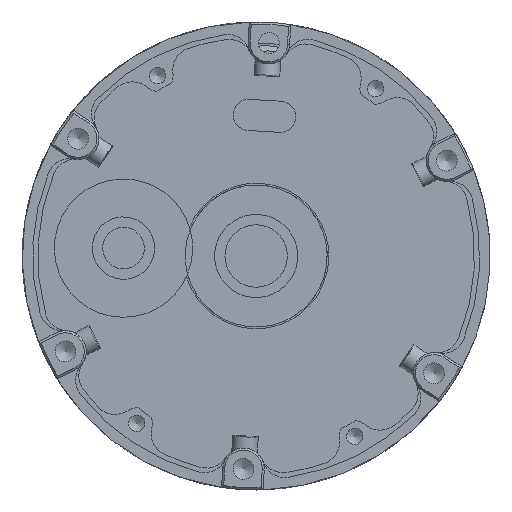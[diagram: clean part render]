
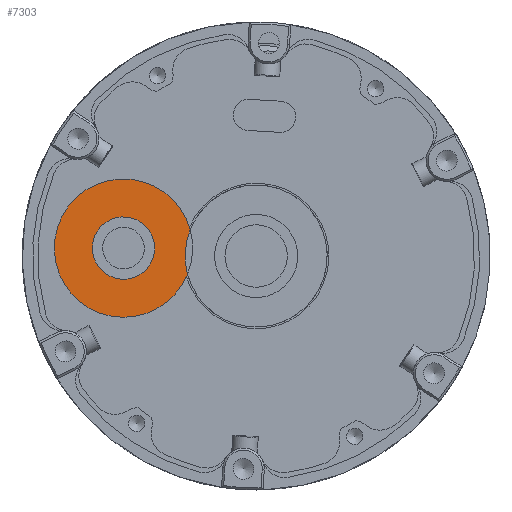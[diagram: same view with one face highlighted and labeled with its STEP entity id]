
A CAD part, left-side view. The second image highlights one B-rep face of the part: STEP entity #7303.
In plain terms, the highlighted planar face has unit normal (-1, 0, 0).
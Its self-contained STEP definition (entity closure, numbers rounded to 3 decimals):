
#60=FACE_BOUND('',#1752,.T.);
#1331=FACE_OUTER_BOUND('',#1751,.T.);
#1751=EDGE_LOOP('',(#4774,#4775));
#1752=EDGE_LOOP('',(#4776));
#2288=CIRCLE('',#7879,6.825);
#2289=CIRCLE('',#7880,6.65);
#2290=CIRCLE('',#7881,3.);
#2908=VERTEX_POINT('',#11714);
#2909=VERTEX_POINT('',#11715);
#2910=VERTEX_POINT('',#11718);
#3627=EDGE_CURVE('',#2908,#2909,#2288,.T.);
#3628=EDGE_CURVE('',#2908,#2909,#2289,.T.);
#3629=EDGE_CURVE('',#2910,#2910,#2290,.T.);
#4774=ORIENTED_EDGE('',*,*,#3627,.T.);
#4775=ORIENTED_EDGE('',*,*,#3628,.F.);
#4776=ORIENTED_EDGE('',*,*,#3629,.T.);
#6643=PLANE('',#7878);
#7303=ADVANCED_FACE('',(#1331,#60),#6643,.T.);
#7878=AXIS2_PLACEMENT_3D('',#11713,#9146,#9147);
#7879=AXIS2_PLACEMENT_3D('',#11716,#9148,#9149);
#7880=AXIS2_PLACEMENT_3D('',#11717,#9150,#9151);
#7881=AXIS2_PLACEMENT_3D('',#11719,#9152,#9153);
#9146=DIRECTION('center_axis',(-1.,0.,0.));
#9147=DIRECTION('ref_axis',(0.,-0.781,-0.625));
#9148=DIRECTION('center_axis',(1.,0.,0.));
#9149=DIRECTION('ref_axis',(0.,-0.283,0.959));
#9150=DIRECTION('center_axis',(1.,0.,0.));
#9151=DIRECTION('ref_axis',(0.,0.781,0.625));
#9152=DIRECTION('center_axis',(1.,0.,0.));
#9153=DIRECTION('ref_axis',(0.,0.813,0.583));
#11713=CARTESIAN_POINT('Origin',(-34.8,8.6,5.951));
#11714=CARTESIAN_POINT('',(-34.8,6.598,-1.746));
#11715=CARTESIAN_POINT('',(-34.8,6.344,2.517));
#11716=CARTESIAN_POINT('Origin',(-34.8,0.,0.));
#11717=CARTESIAN_POINT('Origin',(-34.8,12.757,0.76));
#11718=CARTESIAN_POINT('',(-34.8,14.505,-1.678));
#11719=CARTESIAN_POINT('Origin',(-34.8,12.757,0.76));
